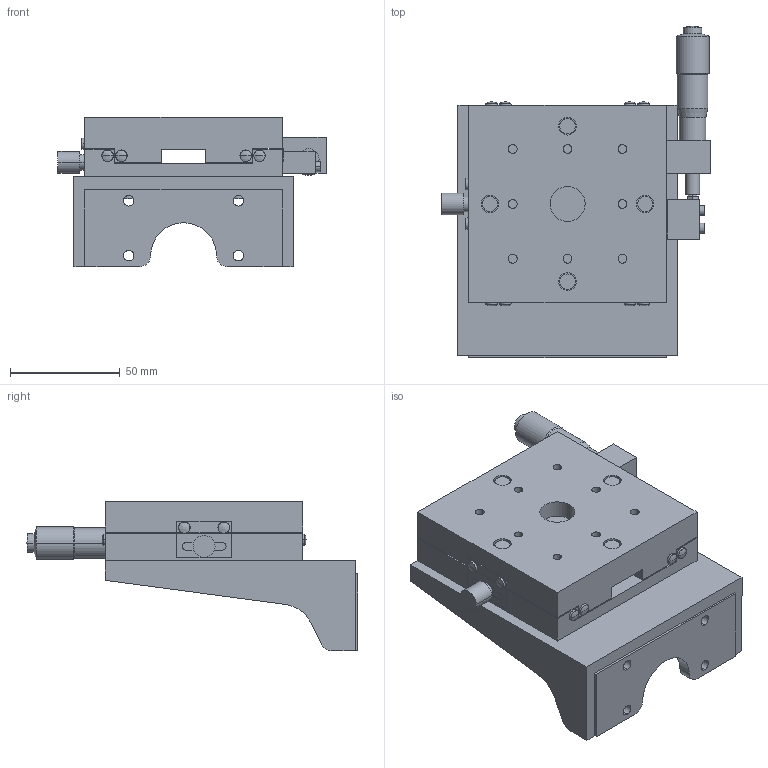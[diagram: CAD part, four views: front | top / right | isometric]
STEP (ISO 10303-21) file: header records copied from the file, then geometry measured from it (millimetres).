
FILE_DESCRIPTION (( 'STEP AP203' ), '1' );
FILE_NAME ('LZ-947-R1.STEP', '2008-01-17T08:37:04', ( '' ), ( '' ), 'SwSTEP 2.0', 'SolidWorks 2007', '' );
FILE_SCHEMA (( 'CONFIG_CONTROL_DESIGN' ));
Length unit declared in the file: millimetre
Products named in the file (3): LZ-947-R1-1_蹬怮椔; LZ-947-R1; LZ-947-R1-2_蹬怮椔
Assembly tree (2 placements, depth 2):
  LZ-947-R1
    LZ-947-R1-2_蹬怮椔
    LZ-947-R1-1_蹬怮椔
Bounding box: 122.3 x 151 x 68 mm (x, y, z)
Volume: 290352.8 mm3; surface area: 88341 mm2
Topology: 3 solids, 11 shells, 396 faces, 886 edges, 576 vertices
Faces by surface type: cylinder 193, plane 155, cone 28, sphere 18, bspline 2
Entity records: 11909 total; most frequent: CARTESIAN_POINT 2271, DIRECTION 2132, ORIENTED_EDGE 1768, EDGE_CURVE 884, AXIS2_PLACEMENT_3D 853, VERTEX_POINT 576, EDGE_LOOP 504, CIRCLE 454
